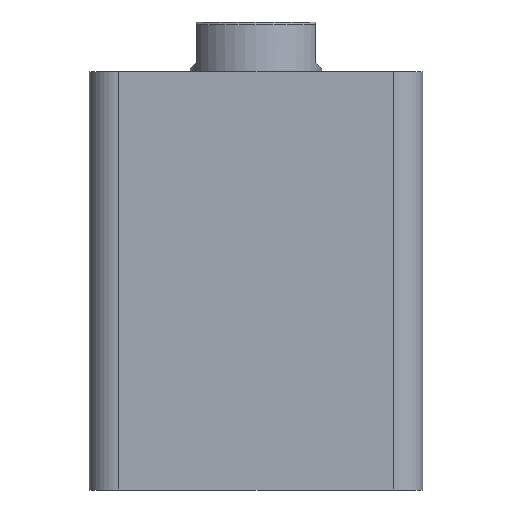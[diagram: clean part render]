
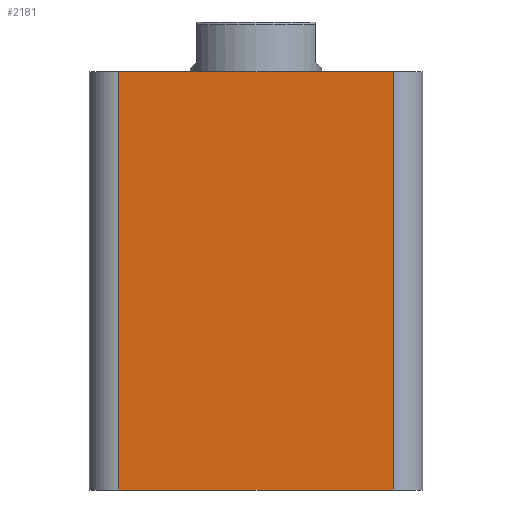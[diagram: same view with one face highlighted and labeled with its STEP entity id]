
A CAD part, front view. The second image highlights one B-rep face of the part: STEP entity #2181.
In plain terms, the highlighted planar face has unit normal (0, -1, 0).
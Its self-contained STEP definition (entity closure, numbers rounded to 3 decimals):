
#144 = VERTEX_POINT ( 'NONE', #2241 ) ;
#145 = VERTEX_POINT ( 'NONE', #2242 ) ;
#153 = VERTEX_POINT ( 'NONE', #2250 ) ;
#226 = EDGE_LOOP ( 'NONE', ( #1891, #1114, #1887, #1894 ) ) ;
#232 = VERTEX_POINT ( 'NONE', #2309 ) ;
#746 = FACE_OUTER_BOUND ( 'NONE', #226, .T. ) ;
#909 = CARTESIAN_POINT ( 'NONE',  ( -57., -57., 143. ) ) ;
#911 = PLANE ( 'NONE',  #1920 ) ;
#913 = DIRECTION ( 'NONE',  ( 0., 1., 0. ) ) ;
#914 = DIRECTION ( 'NONE',  ( 0., 0., 1. ) ) ;
#1114 = ORIENTED_EDGE ( 'NONE', *, *, #2570, .T. ) ;
#1285 = LINE ( 'NONE', #1684, #1296 ) ;
#1291 = LINE ( 'NONE', #1694, #1294 ) ;
#1294 = VECTOR ( 'NONE', #1695, 1000. ) ;
#1295 = LINE ( 'NONE', #1697, #1298 ) ;
#1296 = VECTOR ( 'NONE', #1696, 1000. ) ;
#1297 = LINE ( 'NONE', #1699, #1300 ) ;
#1298 = VECTOR ( 'NONE', #1698, 1000. ) ;
#1300 = VECTOR ( 'NONE', #1700, 1000. ) ;
#1684 = CARTESIAN_POINT ( 'NONE',  ( 47., -57., 143. ) ) ;
#1694 = CARTESIAN_POINT ( 'NONE',  ( -57., -57., 0. ) ) ;
#1695 = DIRECTION ( 'NONE',  ( 1., 0., 0. ) ) ;
#1696 = DIRECTION ( 'NONE',  ( 0., 0., 1. ) ) ;
#1697 = CARTESIAN_POINT ( 'NONE',  ( -57., -57., 143. ) ) ;
#1698 = DIRECTION ( 'NONE',  ( 1., 0., 0. ) ) ;
#1699 = CARTESIAN_POINT ( 'NONE',  ( -47., -57., 143. ) ) ;
#1700 = DIRECTION ( 'NONE',  ( 0., 0., -1. ) ) ;
#1887 = ORIENTED_EDGE ( 'NONE', *, *, #2571, .F. ) ;
#1891 = ORIENTED_EDGE ( 'NONE', *, *, #2569, .T. ) ;
#1894 = ORIENTED_EDGE ( 'NONE', *, *, #2572, .T. ) ;
#1920 = AXIS2_PLACEMENT_3D ( 'NONE', #909, #913, #914 ) ;
#2181 = ADVANCED_FACE ( 'NONE', ( #746 ), #911, .F. ) ;
#2241 = CARTESIAN_POINT ( 'NONE',  ( 47., -57., 0. ) ) ;
#2242 = CARTESIAN_POINT ( 'NONE',  ( -47., -57., 143. ) ) ;
#2250 = CARTESIAN_POINT ( 'NONE',  ( 47., -57., 143. ) ) ;
#2309 = CARTESIAN_POINT ( 'NONE',  ( -47., -57., 0. ) ) ;
#2569 = EDGE_CURVE ( 'NONE', #232, #144, #1291, .T. ) ;
#2570 = EDGE_CURVE ( 'NONE', #144, #153, #1285, .T. ) ;
#2571 = EDGE_CURVE ( 'NONE', #145, #153, #1295, .T. ) ;
#2572 = EDGE_CURVE ( 'NONE', #145, #232, #1297, .T. ) ;
